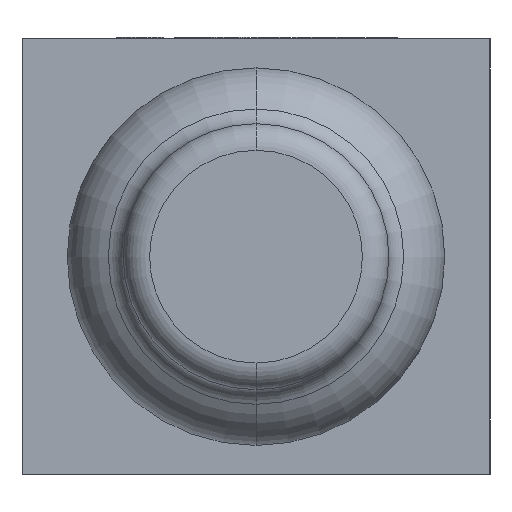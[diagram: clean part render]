
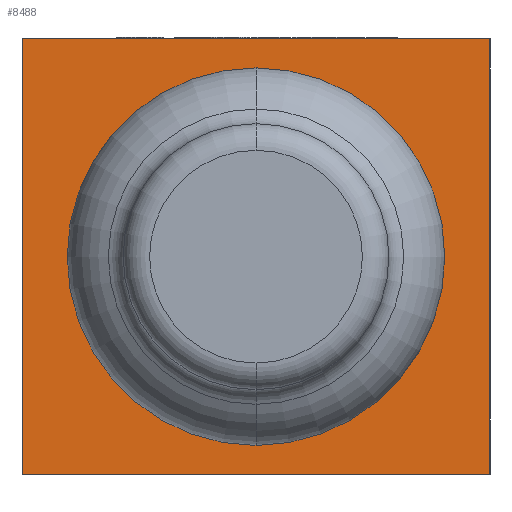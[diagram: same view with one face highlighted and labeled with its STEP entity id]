
A CAD part, front view. The second image highlights one B-rep face of the part: STEP entity #8488.
In plain terms, the highlighted planar face has unit normal (0, -1, 0).
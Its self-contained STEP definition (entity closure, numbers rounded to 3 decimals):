
#585 = VERTEX_POINT ( 'NONE', #4082 ) ;
#704 = CARTESIAN_POINT ( 'NONE',  ( -22., -20.5, -20.5 ) ) ;
#790 = DIRECTION ( 'NONE',  ( 0., 0., -1. ) ) ;
#925 = PLANE ( 'NONE',  #1315 ) ;
#994 = DIRECTION ( 'NONE',  ( 0., 0., 1. ) ) ;
#1290 = EDGE_CURVE ( 'NONE', #4233, #585, #2396, .T. ) ;
#1315 = AXIS2_PLACEMENT_3D ( 'NONE', #9702, #4967, #994 ) ;
#1323 = CARTESIAN_POINT ( 'NONE',  ( -22., -20.5, 20.5 ) ) ;
#1506 = ORIENTED_EDGE ( 'NONE', *, *, #8353, .F. ) ;
#1511 = DIRECTION ( 'NONE',  ( 1., 0., 0. ) ) ;
#1925 = DIRECTION ( 'NONE',  ( 1., 0., 0. ) ) ;
#2173 = FACE_OUTER_BOUND ( 'NONE', #8804, .T. ) ;
#2352 = CARTESIAN_POINT ( 'NONE',  ( 22., -20.5, 20.5 ) ) ;
#2396 = LINE ( 'NONE', #8968, #4871 ) ;
#3937 = LINE ( 'NONE', #1323, #6901 ) ;
#4082 = CARTESIAN_POINT ( 'NONE',  ( 22., -20.5, 20.5 ) ) ;
#4158 = LINE ( 'NONE', #704, #10229 ) ;
#4233 = VERTEX_POINT ( 'NONE', #7281 ) ;
#4543 = VECTOR ( 'NONE', #790, 1000. ) ;
#4729 = ORIENTED_EDGE ( 'NONE', *, *, #9047, .T. ) ;
#4836 = VERTEX_POINT ( 'NONE', #7327 ) ;
#4871 = VECTOR ( 'NONE', #1925, 1000. ) ;
#4900 = LINE ( 'NONE', #2352, #4543 ) ;
#4967 = DIRECTION ( 'NONE',  ( 0., 1., 0. ) ) ;
#5596 = CARTESIAN_POINT ( 'NONE',  ( 22., -20.5, -20.5 ) ) ;
#5829 = ORIENTED_EDGE ( 'NONE', *, *, #1290, .F. ) ;
#5985 = VERTEX_POINT ( 'NONE', #5596 ) ;
#6901 = VECTOR ( 'NONE', #6978, 1000. ) ;
#6978 = DIRECTION ( 'NONE',  ( 0., 0., -1. ) ) ;
#7281 = CARTESIAN_POINT ( 'NONE',  ( -22., -20.5, 20.5 ) ) ;
#7327 = CARTESIAN_POINT ( 'NONE',  ( -22., -20.5, -20.5 ) ) ;
#7926 = EDGE_CURVE ( 'NONE', #4233, #4836, #3937, .T. ) ;
#8353 = EDGE_CURVE ( 'NONE', #585, #5985, #4900, .T. ) ;
#8488 = ADVANCED_FACE ( 'NONE', ( #2173 ), #925, .F. ) ;
#8804 = EDGE_LOOP ( 'NONE', ( #4729, #1506, #5829, #9947 ) ) ;
#8968 = CARTESIAN_POINT ( 'NONE',  ( -22., -20.5, 20.5 ) ) ;
#9047 = EDGE_CURVE ( 'NONE', #4836, #5985, #4158, .T. ) ;
#9702 = CARTESIAN_POINT ( 'NONE',  ( -22., -20.5, 20.5 ) ) ;
#9947 = ORIENTED_EDGE ( 'NONE', *, *, #7926, .T. ) ;
#10229 = VECTOR ( 'NONE', #1511, 1000. ) ;
